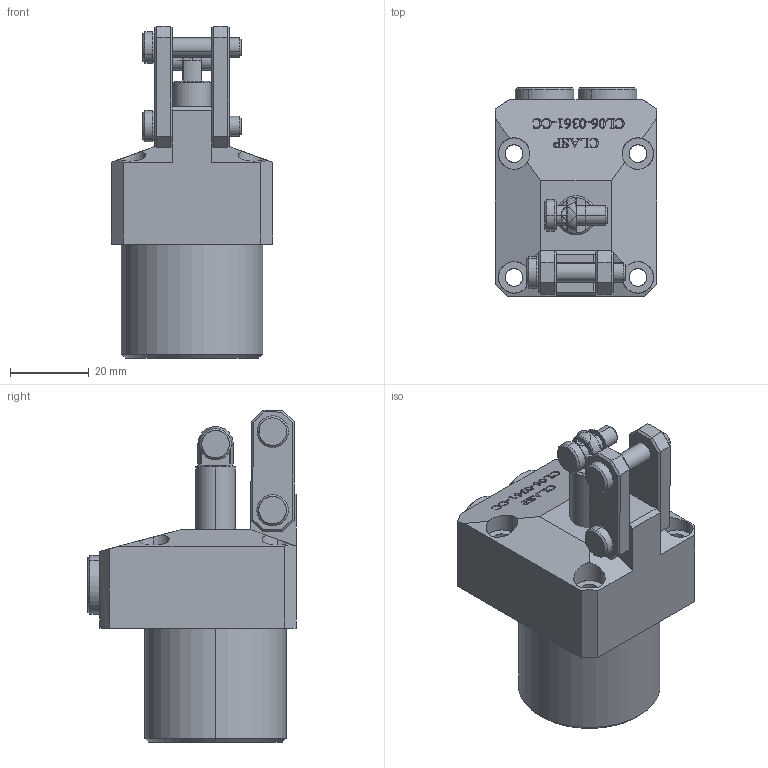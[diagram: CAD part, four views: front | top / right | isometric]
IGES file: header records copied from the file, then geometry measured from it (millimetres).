
Start section: SolidWorks IGES file using analytic representation for surfaces
Global section: file name: D:\karuppas\Clasp\3D model\Link clamp cylinder\CL06-360-CC\CL.06_0360CC.IGS; native system: SolidWorks 2017; preprocessor: SolidWorks 2017; author: pc; date: 220705.224718; units: millimetre
Bounding box: 41 x 53 x 84.51 mm (x, y, z)
Surface area: 19749.5 mm2 (no closed solid volume)
Topology: 0 solids, 0 shells, 524 faces, 7281 edges, 7276 vertices
Faces by surface type: bspline 421, revolution 103
